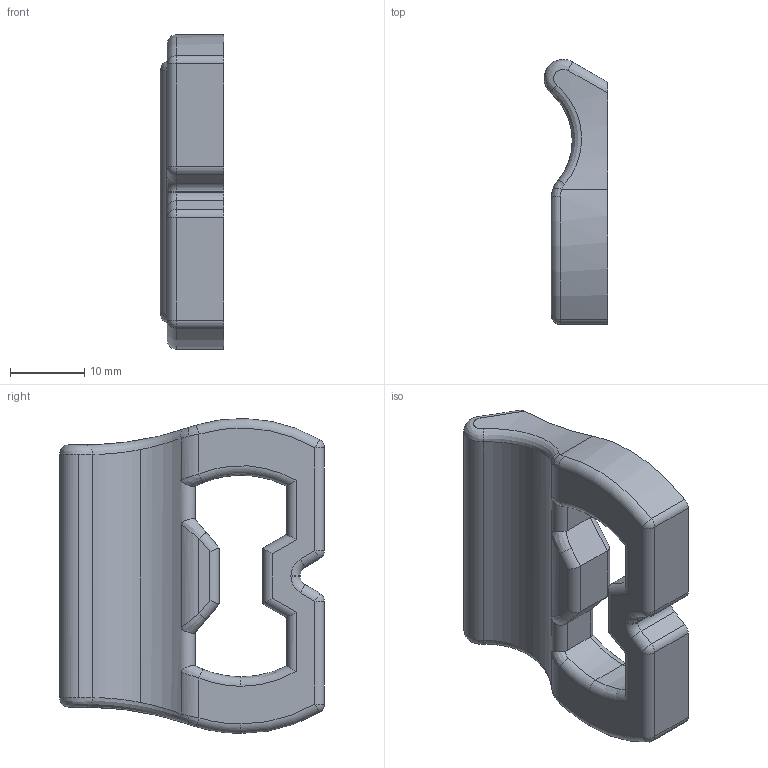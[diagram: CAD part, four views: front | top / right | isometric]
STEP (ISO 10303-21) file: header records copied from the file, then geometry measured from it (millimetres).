
FILE_DESCRIPTION (( 'STEP AP214' ), '1' );
FILE_NAME ('Side Holder.STEP', '2022-07-18T02:00:40', ( '' ), ( '' ), 'SwSTEP 2.0', 'SolidWorks 2021', '' );
FILE_SCHEMA (( 'AUTOMOTIVE_DESIGN' ));
Length unit declared in the file: inch
Products named in the file (1): Side Holder
Bounding box: 8.56 x 35.68 x 42.42 mm (x, y, z)
Volume: 7251.1 mm3; surface area: 3715.3 mm2
Topology: 1 solids, 1 shells, 99 faces, 241 edges, 139 vertices
Faces by surface type: cylinder 47, plane 19, bspline 18, torus 11, sphere 4
Entity records: 3564 total; most frequent: CARTESIAN_POINT 1434, ORIENTED_EDGE 474, DIRECTION 399, EDGE_CURVE 237, AXIS2_PLACEMENT_3D 152, VERTEX_POINT 139, EDGE_LOOP 100, FACE_OUTER_BOUND 99
